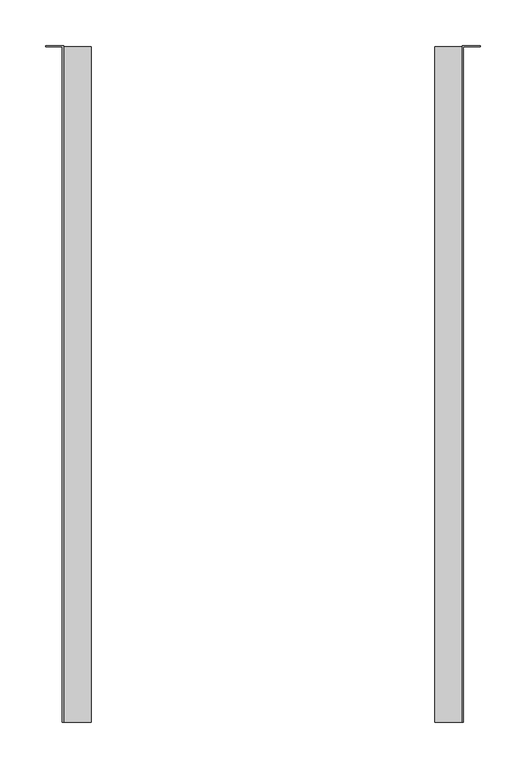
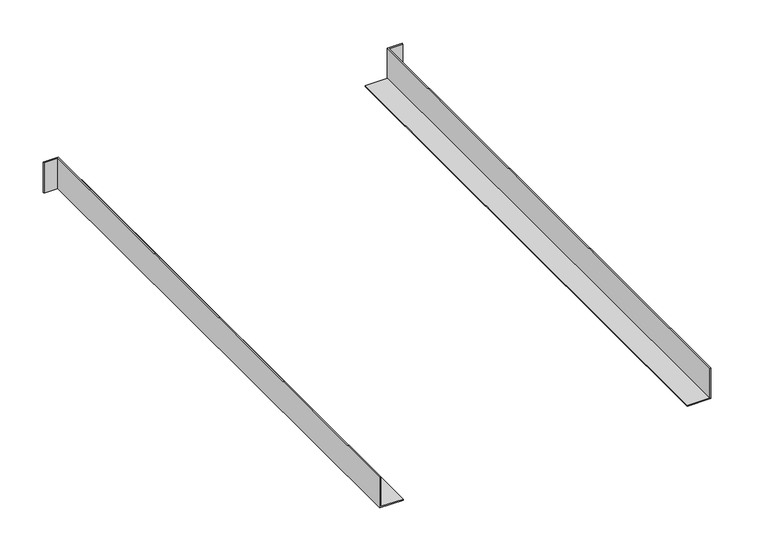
"""IFC4 building model written with IfcOpenShell, lengths in millimetres: proxy geometry, Вл_Монтажный комплект_43мм : Вл_Монтажный комплект_43мм."""

from ifc_helpers import new_model, si_unit, origin, place, context, project, spatial, faceted_brep, source, transform, mapped, element, save


def electrical_equipment_69b62ba1(model_context):
    return source(origin(), model_context, "Body", "Brep", [
        faceted_brep([(189.0, 742.0, 0.0), (189.0, 742.0, 1.5), (219.0, 742.0, 1.5), (219.0, 742.0, 0.0), (220.5, 0.0, 0.0), (220.5, 0.0, 43.0), (219.0, 0.0, 43.0), (219.0, 0.0, 1.5), (189.0, 0.0, 1.5), (189.0, 0.0, 0.0), (220.5, 742.0, 0.0), (220.5, 742.0, 43.0), (239.0, 742.0, 43.0), (239.0, 743.5, 43.0), (219.0, 743.5, 43.0), (219.0, 743.5, 0.0), (239.0, 743.5, 0.0), (239.0, 742.0, 0.0)], [[[0, 1, 2, 3]], [[4, 5, 6, 7, 8, 9]], [[5, 4, 10, 11]], [[6, 5, 11, 12, 13, 14]], [[7, 6, 14, 15, 3, 2]], [[2, 1, 8, 7]], [[1, 0, 9, 8]], [[4, 9, 0, 3, 15, 16, 17, 10]], [[17, 12, 11, 10]], [[14, 13, 16, 15]], [[13, 12, 17, 16]]]),
        faceted_brep([(-219.0, 742.0, 1.5), (-189.0, 742.0, 1.5), (-189.0, 742.0, 0.0), (-219.0, 742.0, 0.0), (-220.5, 0.0, 0.0), (-189.0, 0.0, 0.0), (-189.0, 0.0, 1.5), (-219.0, 0.0, 1.5), (-219.0, 0.0, 43.0), (-220.5, 0.0, 43.0), (-219.0, 743.5, 43.0), (-239.0, 743.5, 43.0), (-239.0, 742.0, 43.0), (-220.5, 742.0, 43.0), (-239.0, 742.0, 0.0), (-239.0, 743.5, 0.0), (-219.0, 743.5, 0.0), (-220.5, 742.0, 0.0)], [[[0, 1, 2, 3]], [[4, 5, 6, 7, 8, 9]], [[10, 11, 12, 13, 9, 8]], [[14, 15, 16, 3, 2, 5, 4, 17]], [[2, 1, 6, 5]], [[1, 0, 7, 6]], [[10, 8, 7, 0, 3, 16]], [[4, 9, 13, 17]], [[12, 14, 17, 13]], [[12, 11, 15, 14]], [[11, 10, 16, 15]]]),
    ])


if __name__ == "__main__":
    model = new_model("IFC4")
    model_context = context("Model", 3, world=origin())
    ifc_project = project(units=[si_unit("LENGTHUNIT", "METRE", prefix="MILLI")], contexts=[model_context])
    site = spatial("IfcSite", under=ifc_project)
    building = spatial("IfcBuilding", under=site)
    placement = place(None, origin())
    electrical_equipment_shape = electrical_equipment_69b62ba1(model_context)
    element("IfcBuildingElementProxy", 1, Name="Вл_Монтажный комплект_43мм : Вл_Монтажный комплект_43мм", ObjectType="Вл_Монтажный комплект_43мм : Вл_Монтажный комплект_43мм", at=placement, inside=building, context=model_context, shape_type="MappedRepresentation", body=[
        mapped(electrical_equipment_shape, transform((0.0, 0.0, 0.0), x_axis=(1.0, 0.0, 0.0), y_axis=(0.0, 1.0, 0.0), z_axis=(0.0, 0.0, 1.0))),
    ])
    save(model, "model.ifc")
